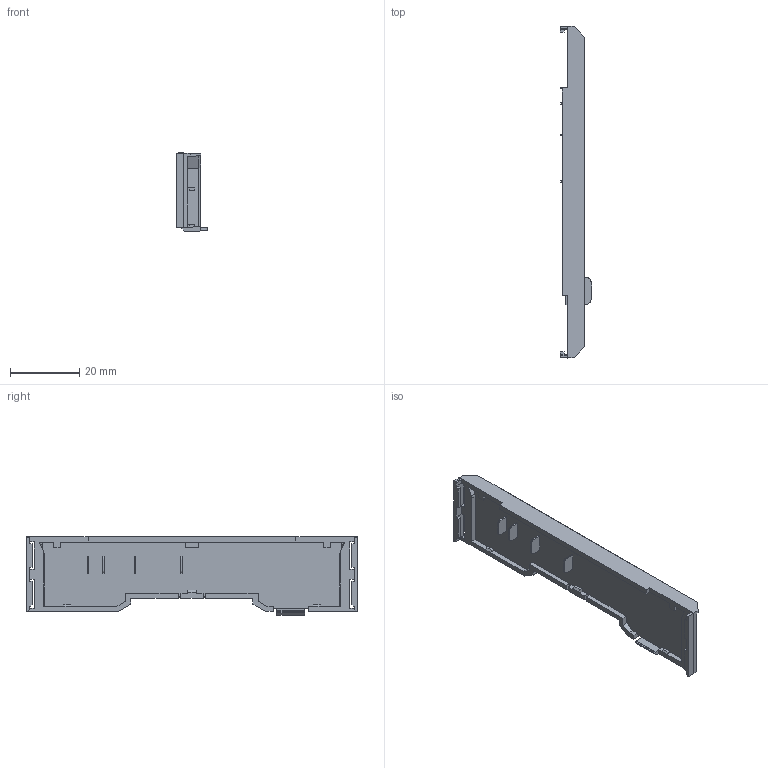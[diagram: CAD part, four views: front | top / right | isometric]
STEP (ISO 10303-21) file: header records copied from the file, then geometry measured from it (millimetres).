
FILE_DESCRIPTION((''),'2;1');
FILE_NAME('MIO-END-01','2024-11-11T16:53:56',('BCKIM'),(''),'CREO PARAMETRIC BY PTC INC, 2024153','CREO PARAMETRIC BY PTC INC, 2024153','');
FILE_SCHEMA(('CONFIG_CONTROL_DESIGN'));
Length unit declared in the file: millimetre
Products named in the file (1): MIO-END-01
Bounding box: 9 x 95.78 x 22.67 mm (x, y, z)
Volume: 6641.7 mm3; surface area: 6058.6 mm2
Topology: 1 solids, 1 shells, 234 faces, 659 edges, 431 vertices
Faces by surface type: plane 207, cylinder 21, bspline 6
Entity records: 8206 total; most frequent: CARTESIAN_POINT 2155, ORIENTED_EDGE 1318, DIRECTION 1120, EDGE_CURVE 659, VECTOR 608, LINE 608, VERTEX_POINT 431, AXIS2_PLACEMENT_3D 256
